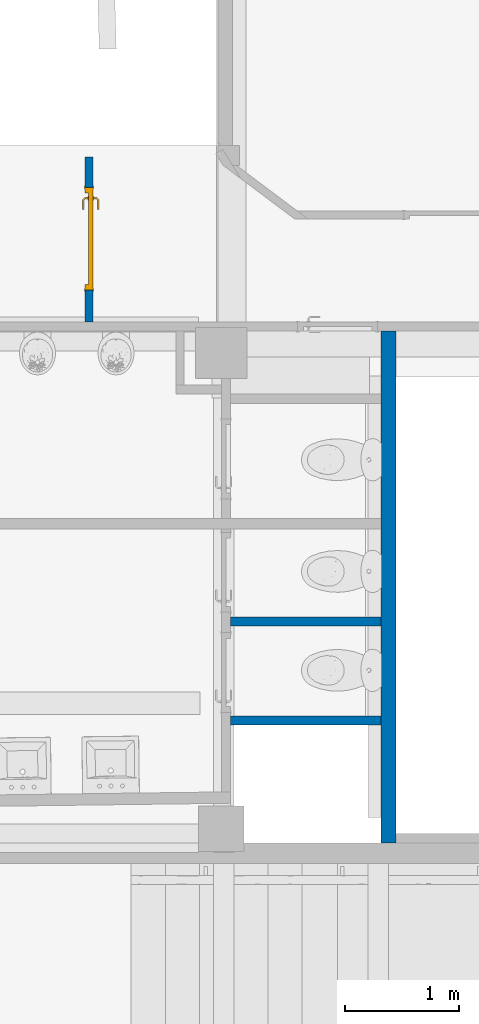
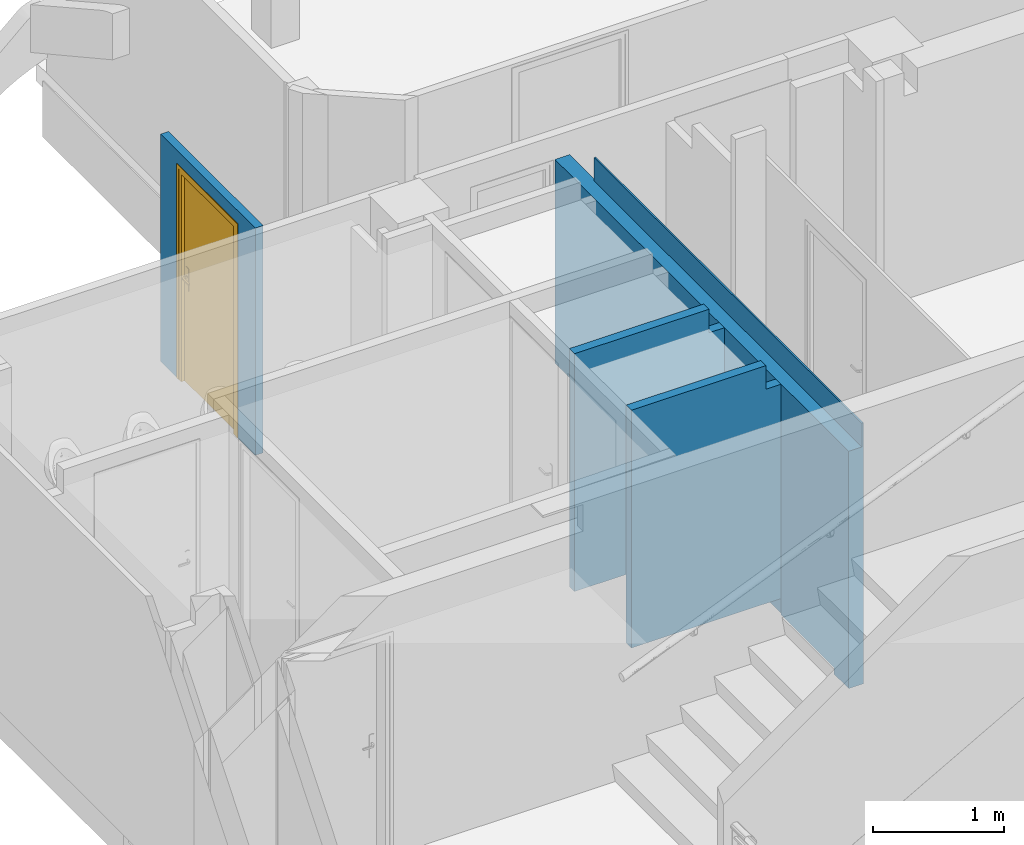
# One storey, part 19 of 32: 4 walls, 1 door, 4 openings.
"""IFC4 building model written with IfcOpenShell, lengths in metres."""

from ifc_helpers import new_model, entity, si_unit, converted_unit, derived_unit, direction, frame, origin, place, context, subcontext, project, spatial, indexed_curve, outline, extrude, polygons, source, transform, mapped, material, material_list, layer, layer_set, constituent, constituent_set, type_object, type_shapes, element, fill, save


model = new_model("IFC4")

# Units and contexts
model_context = context("Model", 3, precision=1e-05, world=origin(), true_north=direction((6.12303176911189e-17, 1.0)))
body_context = subcontext(model_context, "Body", "Model", "MODEL_VIEW")
ifc_project = project(units=[si_unit("LENGTHUNIT", "METRE"), si_unit("AREAUNIT", "SQUARE_METRE"), si_unit("VOLUMEUNIT", "CUBIC_METRE"), converted_unit("PLANEANGLEUNIT", "DEGREE", entity("IfcRatioMeasure", 0.0174532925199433), si_unit("PLANEANGLEUNIT", "RADIAN"), dimensions=[0, 0, 0, 0, 0, 0, 0]), si_unit("MASSUNIT", "GRAM", prefix="KILO"), derived_unit("MASSDENSITYUNIT", [(si_unit("MASSUNIT", "GRAM", prefix="KILO"), 1), (si_unit("LENGTHUNIT", "METRE"), -3)]), derived_unit("MOMENTOFINERTIAUNIT", [(si_unit("LENGTHUNIT", "METRE"), 4)]), si_unit("TIMEUNIT", "SECOND"), si_unit("FREQUENCYUNIT", "HERTZ"), si_unit("THERMODYNAMICTEMPERATUREUNIT", "DEGREE_CELSIUS"), derived_unit("THERMALTRANSMITTANCEUNIT", [(si_unit("MASSUNIT", "GRAM", prefix="KILO"), 1), (si_unit("THERMODYNAMICTEMPERATUREUNIT", "KELVIN"), -1), (si_unit("TIMEUNIT", "SECOND"), -3)]), derived_unit("VOLUMETRICFLOWRATEUNIT", [(si_unit("LENGTHUNIT", "METRE"), 3), (si_unit("TIMEUNIT", "SECOND"), -1)]), si_unit("ELECTRICCURRENTUNIT", "AMPERE"), si_unit("ELECTRICVOLTAGEUNIT", "VOLT"), si_unit("POWERUNIT", "WATT"), si_unit("FORCEUNIT", "NEWTON", prefix="KILO"), si_unit("ILLUMINANCEUNIT", "LUX"), si_unit("LUMINOUSFLUXUNIT", "LUMEN"), si_unit("LUMINOUSINTENSITYUNIT", "CANDELA"), derived_unit("USERDEFINED", [(si_unit("MASSUNIT", "GRAM", prefix="KILO"), -1), (si_unit("LENGTHUNIT", "METRE"), -2), (si_unit("TIMEUNIT", "SECOND"), 3), (si_unit("LUMINOUSFLUXUNIT", "LUMEN"), 1)]), derived_unit("LINEARVELOCITYUNIT", [(si_unit("LENGTHUNIT", "METRE"), 1), (si_unit("TIMEUNIT", "SECOND"), -1)]), si_unit("PRESSUREUNIT", "PASCAL"), derived_unit("USERDEFINED", [(si_unit("LENGTHUNIT", "METRE"), -2), (si_unit("MASSUNIT", "GRAM", prefix="KILO"), 1), (si_unit("TIMEUNIT", "SECOND"), -2)]), derived_unit("LINEARFORCEUNIT", [(si_unit("MASSUNIT", "GRAM", prefix="KILO"), 1), (si_unit("LENGTHUNIT", "METRE"), 1), (si_unit("TIMEUNIT", "SECOND"), -2), (si_unit("LENGTHUNIT", "METRE"), -1)]), derived_unit("PLANARFORCEUNIT", [(si_unit("MASSUNIT", "GRAM", prefix="KILO"), 1), (si_unit("LENGTHUNIT", "METRE"), 1), (si_unit("TIMEUNIT", "SECOND"), -2), (si_unit("LENGTHUNIT", "METRE"), -2)])], contexts=[model_context])

# Site, building, storey
site_placement = place(None, origin())
site = spatial("IfcSite", under=ifc_project, at=site_placement, Name="Default", CompositionType="ELEMENT")
building_placement = place(site_placement, origin())
building = spatial("IfcBuilding", under=site, at=building_placement, Name="HOTEL CONSULAIRE BOULOGNE SUR MER", CompositionType="ELEMENT")
storey_placement = place(building_placement, frame((0.0, 0.0, -2.70343668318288)))
storey = spatial("IfcBuildingStorey", under=building, at=storey_placement, Name="SS1", CompositionType="ELEMENT", Elevation=-2.70343668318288)

# Wall, opening, door
ifc_material_1 = material(Name="Mur par défaut", Category="Divers")
ifc_layer_1 = layer(ifc_material_1, 0.07, Name="Mur par défaut", Category="Divers")
ifc_layer_set_1 = layer_set([ifc_layer_1], Name="Mur de base:Générique - Int. 70 mm")
wall_type_1 = type_object("IfcWallType", Name="Mur de base:Générique - Int. 70 mm", PredefinedType="NOTDEFINED", material=ifc_layer_set_1)
wall_1_placement = place(storey_placement, frame((-2.38994801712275, -15.3456940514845, 0.313990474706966), z_axis=(0.0, 0.0, 1.0), x_axis=(0.0, 1.0, 0.0)))
wall_1 = element("IfcWall", 1, at=wall_1_placement, inside=storey, type_object=wall_type_1, material=ifc_layer_set_1, Name="Mur de base:Générique - Int. 70 mm", ObjectType="Mur de base:Générique - Int. 70 mm", PredefinedType="NOTDEFINED", context=body_context, shape_type="Tessellation", body=[
    polygons([(1.4473609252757, -0.0350000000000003, 0.0), (1.1813609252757, -0.0350000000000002, 0.0), (1.18136092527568, 0.0349999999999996, 0.0), (1.4473609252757, 0.035, 0.0), (1.4473609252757, -0.0350000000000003, 2.11944620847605), (0.0, -0.0350000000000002, 2.11944620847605), (0.0, -0.0350000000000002, 0.0), (0.281360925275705, -0.0350000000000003, 9.52529303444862e-06), (0.281360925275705, -0.0350000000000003, 1.98500952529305), (1.1813609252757, -0.0350000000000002, 1.98500952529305), (0.0, 0.0349999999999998, 2.11944620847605), (1.4473609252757, 0.0349999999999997, 2.11944620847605), (1.1813609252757, 0.0349999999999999, 1.98500952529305), (0.281360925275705, 0.0349999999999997, 1.98500952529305), (0.281360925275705, 0.0349999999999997, 0.0), (0.0, 0.0349999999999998, 0.0)], [[[2, 3, 4, 1]], [[10, 9, 14, 13]], [[7, 16, 15]], [[7, 8, 9, 10, 2, 1, 5, 6]], [[4, 3, 13, 14, 15, 16, 11, 12]], [[6, 5, 12, 11]], [[9, 8, 15, 14]], [[1, 4, 12, 5]], [[2, 10, 13, 3]], [[16, 7, 6, 11]], [[15, 8, 7]]], closed=True),
])
opening_1_placement = place(wall_1_placement, frame((1.1813609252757, 0.0349999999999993, 9.52529303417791e-06)))
opening_1 = element("IfcOpeningElement", 2, at=opening_1_placement, cuts=wall_1, Name="Int. Simple:PP (0.83m x 1.95:1", ObjectType="Opening", PredefinedType="OPENING", context=body_context, shape_type="SweptSolid", body=[
    extrude(outline(indexed_curve([(0.0, 0.900000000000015), (0.0, 1.51601398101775e-14), (1.98500000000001, 0.0), (1.98500000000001, 0.899999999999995), (0.0, 0.900000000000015)], self_intersect=False)), frame((0.0, 0.0, 0.0), z_axis=(0.0, -1.0, 0.0), x_axis=(0.0, 0.0, 1.0)), (0.0, 0.0, 1.0), 0.07),
])
ifc_material_2 = material(Name="Finition Peinture - Blanc satiné", Category="Peinture")
ifc_constituent_1 = constituent(ifc_material_2, Name="Finition Peinture - Blanc satiné", Category="Matériaux")
ifc_material_3 = material(Name="Bois - Panneau de porte", Category="Bois")
ifc_constituent_2 = constituent(ifc_material_3, Name="Bois - Panneau de porte", Category="Matériaux")
ifc_material_4 = material(Name="Bois - Cadre de porte", Category="Bois")
ifc_constituent_3 = constituent(ifc_material_4, Name="Bois - Cadre de porte", Category="Matériaux")
ifc_constituent_set = constituent_set(constituents=[ifc_constituent_1, ifc_constituent_2, ifc_constituent_3], Name="MaterialConstituentSet")
ifc_material_list = material_list([ifc_material_4, ifc_material_2, ifc_material_3, ifc_material_4])
door_type = type_object("IfcDoorType", Name="Int. Simple:PP (0.83m x 1.95", OperationType="NOTDEFINED", PredefinedType="DOOR", material=ifc_material_list)
shared_shape = source(origin(), body_context, "Body", "Tessellation", [
    polygons([(0.895000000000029, -0.00500000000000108, 0.870000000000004), (0.895000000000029, -0.00500000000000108, 1.08), (0.88535276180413, -0.00500000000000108, 1.08399601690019), (0.875000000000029, -0.00500000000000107, 1.08535898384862), (0.864647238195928, -0.00500000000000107, 1.08399601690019), (0.85500000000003, -0.00500000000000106, 1.08), (0.855000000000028, -0.00500000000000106, 0.870000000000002), (0.864647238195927, -0.00500000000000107, 0.866003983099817), (0.875000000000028, -0.00500000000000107, 0.86464101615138), (0.885352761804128, -0.00500000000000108, 0.866003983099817), (0.895000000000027, -1.07440722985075e-15, 0.870000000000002), (0.885352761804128, -1.07017728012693e-15, 0.866003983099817), (0.875000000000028, -1.06594733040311e-15, 0.86464101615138), (0.864647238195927, -1.06171738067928e-15, 0.866003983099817), (0.855000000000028, -1.05748743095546e-15, 0.870000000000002), (0.855000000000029, -1.05748743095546e-15, 1.08), (0.864647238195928, -1.06171738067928e-15, 1.08399601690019), (0.875000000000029, -1.06594733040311e-15, 1.08535898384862), (0.88535276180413, -1.07017728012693e-15, 1.08399601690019), (0.895000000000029, -1.07440722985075e-15, 1.08)], [[[1, 2, 3, 4, 5, 6, 7, 8, 9, 10]], [[20, 11, 12, 13, 14, 15, 16, 17, 18, 19]], [[10, 12, 11, 1]], [[9, 13, 12, 10]], [[8, 14, 13, 9]], [[8, 7, 15, 14]], [[15, 7, 6, 16]], [[5, 17, 16, 6]], [[4, 18, 17, 5]], [[3, 19, 18, 4]], [[3, 2, 20, 19]], [[11, 20, 2, 1]]], closed=True),
    polygons([(0.85500000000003, 0.0399999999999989, 1.08), (0.855000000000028, 0.0399999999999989, 0.870000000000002), (0.864647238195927, 0.0399999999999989, 0.866003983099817), (0.875000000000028, 0.0399999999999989, 0.86464101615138), (0.885352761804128, 0.0399999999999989, 0.866003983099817), (0.895000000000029, 0.0399999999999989, 0.870000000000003), (0.895000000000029, 0.0399999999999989, 1.08), (0.88535276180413, 0.0399999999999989, 1.08399601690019), (0.875000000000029, 0.0399999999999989, 1.08535898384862), (0.864647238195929, 0.0399999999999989, 1.08399601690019), (0.85500000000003, 0.0449999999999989, 1.08), (0.864647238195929, 0.0449999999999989, 1.08399601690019), (0.875000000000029, 0.0449999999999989, 1.08535898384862), (0.88535276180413, 0.0449999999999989, 1.08399601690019), (0.895000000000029, 0.0449999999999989, 1.08), (0.895000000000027, 0.0449999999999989, 0.870000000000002), (0.885352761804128, 0.0449999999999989, 0.866003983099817), (0.875000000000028, 0.0449999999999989, 0.86464101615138), (0.864647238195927, 0.0449999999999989, 0.866003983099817), (0.855000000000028, 0.0449999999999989, 0.870000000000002)], [[[6, 7, 8, 9, 10, 1, 2, 3, 4, 5]], [[13, 14, 15, 16, 17, 18, 19, 20, 11, 12]], [[10, 12, 11, 1]], [[9, 13, 12, 10]], [[8, 14, 13, 9]], [[8, 7, 15, 14]], [[16, 15, 7, 6]], [[5, 17, 16, 6]], [[4, 18, 17, 5]], [[3, 19, 18, 4]], [[3, 2, 20, 19]], [[20, 2, 1, 11]]], closed=True),
    polygons([(0.88100000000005, -0.00500000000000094, 1.00699999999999), (0.88100000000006, -0.00500000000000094, 0.992999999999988), (0.877025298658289, -0.00500000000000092, 0.99221955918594), (0.87297470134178, -0.00500000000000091, 0.992219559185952), (0.869000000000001, -0.00500000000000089, 0.993000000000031), (0.869000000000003, -0.00500000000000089, 1.007), (0.872974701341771, -0.00500000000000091, 1.00778044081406), (0.877025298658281, -0.00500000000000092, 1.00778044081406), (0.869000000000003, -0.0276803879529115, 1.007), (0.872974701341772, -0.0293267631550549, 1.00778044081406), (0.877025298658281, -0.0310045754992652, 1.00778044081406), (0.881000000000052, -0.0326509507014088, 1.007), (0.869000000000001, -0.0276803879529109, 0.993000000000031), (0.88100000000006, -0.0326509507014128, 0.992999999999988), (0.877025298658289, -0.0310045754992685, 0.99221955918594), (0.87297470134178, -0.0293267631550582, 0.992219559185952), (0.857652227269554, -0.0390281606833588, 1.007), (0.859298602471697, -0.0430028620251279, 1.00778044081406), (0.860976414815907, -0.0470534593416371, 1.00778044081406), (0.862622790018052, -0.051028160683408, 1.007), (0.857652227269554, -0.0390281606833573, 0.993000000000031), (0.862622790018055, -0.0510281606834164, 0.992999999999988), (0.860976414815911, -0.0470534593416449, 0.99221955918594), (0.859298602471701, -0.0430028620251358, 0.992219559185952), (0.774981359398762, -0.0510281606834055, 1.007), (0.774981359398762, -0.0470534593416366, 1.00778044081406), (0.774981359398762, -0.0430028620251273, 1.00778044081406), (0.774981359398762, -0.0390281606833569, 1.00699999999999), (0.774981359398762, -0.0390281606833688, 0.993000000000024), (0.774981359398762, -0.0430028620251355, 0.992219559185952), (0.774981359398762, -0.0470534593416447, 0.99221955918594), (0.774981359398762, -0.0510281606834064, 0.992999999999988), (0.822692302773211, -0.051028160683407, 1.007), (0.817139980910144, -0.045028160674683, 1.0078786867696), (0.816316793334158, -0.039028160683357, 1.007), (0.822692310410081, -0.0510281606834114, 0.992999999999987), (0.817139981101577, -0.0450281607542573, 0.992121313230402), (0.81631679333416, -0.039028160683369, 0.993000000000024)], [[[7, 8, 1, 2, 3, 4, 5, 6]], [[17, 21, 38, 29, 28, 35]], [[1, 8, 11, 12]], [[8, 7, 10, 18, 19, 11]], [[7, 6, 9, 10]], [[13, 9, 6, 5]], [[25, 26, 27, 28, 29, 30, 31, 32]], [[4, 16, 13, 5]], [[4, 3, 15, 23, 24, 16]], [[2, 14, 15, 3]], [[12, 14, 2, 1]], [[12, 11, 19, 20]], [[10, 9, 17, 18]], [[21, 17, 9, 13]], [[13, 16, 24, 21]], [[15, 14, 22, 23]], [[20, 22, 14, 12]], [[34, 26, 33]], [[33, 26, 25]], [[33, 20, 19]], [[18, 35, 34]], [[35, 18, 17]], [[28, 27, 35]], [[34, 27, 26]], [[34, 35, 27]], [[34, 33, 19]], [[18, 34, 19]], [[37, 30, 38]], [[31, 37, 36]], [[24, 38, 21]], [[30, 29, 38]], [[31, 36, 32]], [[36, 23, 22]], [[37, 23, 36]], [[37, 24, 23]], [[37, 38, 24]], [[30, 37, 31]], [[22, 20, 33, 25, 32, 36]]], closed=True),
    polygons([(0.86900000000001, 0.0449999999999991, 0.993000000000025), (0.872974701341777, 0.0449999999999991, 0.992219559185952), (0.877025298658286, 0.044999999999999, 0.99221955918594), (0.881000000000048, 0.044999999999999, 0.992999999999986), (0.881000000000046, 0.044999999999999, 1.007), (0.877025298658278, 0.044999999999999, 1.00778044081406), (0.872974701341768, 0.0449999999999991, 1.00778044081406), (0.868999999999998, 0.0449999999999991, 1.007), (0.868999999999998, 0.067485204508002, 1.007), (0.868999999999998, 0.0674852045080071, 0.993000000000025), (0.881000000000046, 0.0724557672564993, 1.007), (0.877025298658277, 0.070809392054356, 1.00778044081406), (0.872974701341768, 0.0691315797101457, 1.00778044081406), (0.881000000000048, 0.0724557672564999, 0.992999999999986), (0.872974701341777, 0.0691315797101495, 0.992219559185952), (0.877025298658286, 0.0708093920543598, 0.99221955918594), (0.85751471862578, 0.0789704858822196, 1.007), (0.857514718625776, 0.0789704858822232, 0.993000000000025), (0.862485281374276, 0.0909704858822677, 1.007), (0.860838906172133, 0.0869957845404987, 1.00778044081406), (0.859161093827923, 0.0829451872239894, 1.00778044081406), (0.862485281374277, 0.0909704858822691, 0.992999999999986), (0.859161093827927, 0.0829451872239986, 0.992219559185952), (0.860838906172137, 0.0869957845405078, 0.99221955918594), (0.774954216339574, 0.0789704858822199, 0.993000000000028), (0.774954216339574, 0.0789704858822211, 1.007), (0.774954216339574, 0.0829451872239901, 1.00778044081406), (0.774954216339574, 0.0869957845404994, 1.00778044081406), (0.774954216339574, 0.0909704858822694, 1.007), (0.774954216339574, 0.0909704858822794, 0.992999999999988), (0.774954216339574, 0.086995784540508, 0.99221955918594), (0.774954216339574, 0.0829451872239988, 0.992219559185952), (0.82255479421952, 0.0909704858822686, 1.007), (0.817057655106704, 0.0849704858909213, 1.0078786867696), (0.816234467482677, 0.0789704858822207, 1.007), (0.822554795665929, 0.0909704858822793, 0.992999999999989), (0.817057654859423, 0.0849704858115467, 0.992121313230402), (0.816234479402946, 0.0789704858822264, 0.993000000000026)], [[[2, 3, 4, 5, 6, 7, 8, 1]], [[18, 17, 35, 26, 25, 38]], [[9, 10, 1, 8]], [[27, 28, 29, 30, 31, 32, 25, 26]], [[7, 13, 9, 8]], [[7, 6, 12, 20, 21, 13]], [[5, 11, 12, 6]], [[11, 5, 4, 14]], [[4, 3, 16, 14]], [[3, 2, 15, 23, 24, 16]], [[2, 1, 10, 15]], [[17, 18, 10, 9]], [[9, 13, 21, 17]], [[11, 19, 20, 12]], [[22, 19, 11, 14]], [[14, 16, 24, 22]], [[15, 10, 18, 23]], [[34, 27, 35]], [[28, 34, 33]], [[21, 35, 17]], [[27, 26, 35]], [[28, 33, 29]], [[33, 20, 19]], [[34, 20, 33]], [[34, 21, 20]], [[34, 35, 21]], [[27, 34, 28]], [[19, 22, 36, 30, 29, 33]], [[37, 31, 36]], [[36, 31, 30]], [[36, 22, 24]], [[23, 38, 37]], [[38, 23, 18]], [[25, 32, 38]], [[37, 32, 31]], [[37, 38, 32]], [[37, 36, 24]], [[23, 37, 24]]], closed=True),
    polygons([(0.935000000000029, 0.0400000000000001, 1.95), (0.935000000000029, 0.0400000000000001, 0.0), (0.105000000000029, 0.0400000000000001, 0.0), (0.105000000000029, 0.0400000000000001, 1.95), (0.935000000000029, 5.92192961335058e-17, 1.95), (0.105000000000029, 5.92192961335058e-17, 1.95), (0.105000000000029, 5.92192961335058e-17, 0.0), (0.935000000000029, 5.92192961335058e-17, 0.0)], [[[4, 1, 2, 3]], [[5, 6, 7, 8]], [[6, 5, 1, 4]], [[6, 4, 3, 7]], [[8, 7, 3, 2]], [[8, 2, 1, 5]]], closed=True),
    polygons([(0.970000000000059, -4.22994972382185e-18, 0.0), (0.935000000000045, -4.22994972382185e-18, 0.0), (0.935000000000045, 0.04, 0.0), (0.920000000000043, 0.04, 0.0), (0.920000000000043, 0.0699999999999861, 0.0), (0.970000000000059, 0.0699999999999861, 0.0), (0.970000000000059, 0.0699999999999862, 1.98500000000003), (0.970000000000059, -4.22994972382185e-18, 1.98500000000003), (0.920000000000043, 0.0699999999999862, 1.93500000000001), (0.120000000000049, 0.0699999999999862, 1.93500000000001), (0.120000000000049, 0.0699999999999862, 0.0), (0.0700000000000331, 0.0699999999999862, 0.0), (0.0700000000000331, 0.0699999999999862, 1.98500000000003), (0.920000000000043, 0.04, 1.93500000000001), (0.935000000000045, 0.04, 1.95000000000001), (0.105000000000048, 0.04, 1.95000000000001), (0.105000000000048, 0.04, 0.0), (0.120000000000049, 0.04, 4.03399441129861e-24), (0.120000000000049, 0.04, 1.93500000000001), (0.935000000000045, -4.22994972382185e-18, 1.95000000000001), (0.0700000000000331, -4.22994972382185e-18, 1.98500000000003), (0.0700000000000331, -4.22994972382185e-18, -4.2615528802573e-24), (0.105000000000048, -4.22994972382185e-18, 5.75102762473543e-24), (0.105000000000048, -4.22994972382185e-18, 1.95000000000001)], [[[4, 5, 6, 1, 2, 3]], [[17, 23, 22, 12, 11, 18]], [[19, 10, 9, 14]], [[16, 15, 20, 24]], [[8, 1, 6, 7]], [[11, 10, 19, 18]], [[23, 17, 16, 24]], [[9, 10, 11, 12, 13, 7, 6, 5]], [[14, 9, 5, 4]], [[20, 15, 3, 2]], [[22, 21, 13, 12]], [[19, 14, 4, 3, 15, 16, 17, 18]], [[24, 20, 2, 1, 8, 21, 22, 23]], [[13, 21, 8, 7]]], closed=True),
    polygons([(0.955000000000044, 0.0699999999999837, 0.0), (0.955000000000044, 0.0749999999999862, 0.0), (0.985000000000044, 0.0749999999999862, 0.0), (0.985000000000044, 0.0699999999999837, 0.0), (0.985000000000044, 0.0699999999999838, 2.00000000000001), (0.0550000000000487, 0.0699999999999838, 2.00000000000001), (0.0550000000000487, 0.0699999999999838, 0.0), (0.0850000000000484, 0.0699999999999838, 0.0), (0.0850000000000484, 0.0699999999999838, 1.97000000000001), (0.955000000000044, 0.0699999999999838, 1.97000000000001), (0.985000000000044, 0.0749999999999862, 2.00000000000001), (0.955000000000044, 0.0749999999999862, 1.97000000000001), (0.0850000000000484, 0.0749999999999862, 1.97000000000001), (0.0850000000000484, 0.0749999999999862, 4.03399441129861e-24), (0.0550000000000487, 0.0749999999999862, 0.0), (0.0550000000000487, 0.0749999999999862, 2.00000000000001)], [[[2, 3, 4, 1]], [[7, 15, 14, 8]], [[9, 13, 12, 10]], [[9, 10, 1, 4, 5, 6, 7, 8]], [[11, 5, 4, 3]], [[14, 13, 9, 8]], [[12, 13, 14, 15, 16, 11, 3, 2]], [[12, 2, 1, 10]], [[15, 7, 6, 16]], [[16, 6, 5, 11]]], closed=True),
    polygons([(0.0850000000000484, -0.005, -1.35358391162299e-16), (0.0550000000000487, -0.005, -1.35358391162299e-16), (0.0550000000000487, -8.33300095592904e-16, -1.35358391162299e-16), (0.0850000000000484, -8.33300095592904e-16, -1.35358391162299e-16), (0.955000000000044, -0.005, 0.0), (0.955000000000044, -8.33300095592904e-16, 0.0), (0.985000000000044, -8.33300095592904e-16, 0.0), (0.985000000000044, -0.005, 0.0), (0.985000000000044, -0.005, 2.00000000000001), (0.0550000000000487, -0.005, 2.00000000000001), (0.0850000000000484, -0.005, 1.97000000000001), (0.955000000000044, -0.005, 1.97000000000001), (0.985000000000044, -8.33300095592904e-16, 2.00000000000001), (0.955000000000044, -8.33300095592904e-16, 1.97000000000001), (0.0850000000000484, -8.33300095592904e-16, 1.97000000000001), (0.0550000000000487, -8.33300095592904e-16, 2.00000000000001)], [[[2, 3, 4, 1]], [[6, 7, 8, 5]], [[11, 15, 14, 12]], [[11, 12, 5, 8, 9, 10, 2, 1]], [[13, 9, 8, 7]], [[4, 15, 11, 1]], [[14, 15, 4, 3, 16, 13, 7, 6]], [[14, 6, 5, 12]], [[3, 2, 10, 16]], [[10, 9, 13, 16]]], closed=True),
])
type_shapes(door_type, [shared_shape])
door_placement = place(opening_1_placement, frame((-0.970000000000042, -0.0699999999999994, 0.0)))
door = element("IfcDoor", 3, at=door_placement, inside=storey, type_object=door_type, material=ifc_constituent_set, Name="Int. Simple:PP (0.83m x 1.95", ObjectType="Int. Simple:PP (0.83m x 1.95", OperationType="NOTDEFINED", OverallHeight=1.98500000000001, OverallWidth=0.900000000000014, PredefinedType="DOOR", context=body_context, shape_type="MappedRepresentation", body=[
    mapped(shared_shape, transform((0.0, 0.0, 0.0), scale=1.0)),
])
fill(opening_1, door)

# Wall, openings
ifc_layer_2 = layer(ifc_material_1, 0.13, Name="Mur par défaut", Category="Divers")
ifc_layer_set_2 = layer_set([ifc_layer_2], Name="Mur de base:Générique - Int. 130 mm")
wall_type_2 = type_object("IfcWallType", Name="Mur de base:Générique - Int. 130 mm", PredefinedType="NOTDEFINED", material=ifc_layer_set_2)
wall_2_placement = place(storey_placement, frame((0.237268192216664, -19.9149143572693, 0.0), z_axis=(0.0, 0.0, 1.0), x_axis=(0.0, 1.0, 0.0)))
wall_2 = element("IfcWall", 4, at=wall_2_placement, inside=storey, type_object=wall_type_2, material=ifc_layer_set_2, Name="Mur de base:Générique - Int. 130 mm", ObjectType="Mur de base:Générique - Int. 130 mm", PredefinedType="NOTDEFINED", context=body_context, shape_type="Tessellation", body=[
    polygons([(3.85668094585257, 0.065, 0.215), (2.84600000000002, 0.065, 0.215), (2.75600000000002, 0.065, 0.215), (1.9807784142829, 0.065, 0.215), (1.9007784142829, 0.065, 0.215), (1.1120045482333, 0.065, 0.215), (1.0320045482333, 0.065, 0.215), (1.0320045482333, 0.065, 0.0599999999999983), (0.224304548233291, 0.065, 0.0599999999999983), (0.224304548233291, 0.065, 0.0), (0.0, 0.065, 0.0), (0.0, 0.065, 2.21343668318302), (1.0320045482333, 0.065, 2.21343668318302), (1.1120045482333, 0.065, 2.21343668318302), (1.9007784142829, 0.065, 2.21343668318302), (1.9807784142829, 0.065, 2.21343668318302), (2.75600000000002, 0.065, 2.21343668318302), (2.84600000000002, 0.065, 2.21343668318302), (3.85668094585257, 0.065, 2.21343668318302), (3.93668094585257, 0.065, 2.21343668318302), (4.48922030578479, 0.065, 2.21343668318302), (4.48922030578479, 0.065, 0.313990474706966), (3.93668094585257, 0.065, 0.313990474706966), (3.85668094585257, 0.065, 0.313990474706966), (0.0, -0.065, 2.43343668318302), (0.0, -0.065, 0.294), (0.0, -0.065, 0.0), (4.26500454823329, -0.065, 0.0), (4.26500454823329, -0.065, 0.143990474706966), (4.08922030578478, -0.065, 0.143990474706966), (4.08922030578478, -0.065, 0.313990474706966), (4.48922030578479, -0.065, 0.313990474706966), (4.48922030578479, -0.065, 2.21343668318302), (4.08922030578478, -0.065, 2.21343668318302), (4.08922030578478, -0.065, 2.43343668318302), (0.0799999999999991, -0.065, 2.43343668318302), (3.85668094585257, 0.065, 0.0599999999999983), (3.85668094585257, 0.065, 0.143990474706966), (4.26500454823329, 0.065, 0.143990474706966), (4.26500454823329, 0.065, 0.0), (4.09770454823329, 0.065, 0.0), (4.09770454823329, 0.065, 0.0599999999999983), (0.224304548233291, -0.000572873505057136, 0.0), (4.09770454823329, -0.00057287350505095, 0.0), (0.0, -0.050271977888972, 2.43343668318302), (4.08922030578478, -0.0502719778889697, 2.43343668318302), (0.0, -0.0502719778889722, 2.21343668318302), (3.85668094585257, 0.0534953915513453, 0.215), (1.0320045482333, 0.0534953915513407, 0.215), (3.85668094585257, 0.0534953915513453, 0.143990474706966), (3.85668094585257, 0.0534953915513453, 0.0599999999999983), (1.0320045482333, 0.0534953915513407, 0.0599999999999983), (3.85668094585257, -0.0502719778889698, 0.143990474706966), (4.08922030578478, -0.0502719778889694, 0.143990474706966), (3.85668094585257, -0.0502719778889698, 0.313990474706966), (4.08922030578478, -0.0502719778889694, 0.313990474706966), (0.224304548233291, -0.000572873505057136, 0.0599999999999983), (4.09770454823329, -0.00057287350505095, 0.0599999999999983), (4.08922030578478, -0.0502719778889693, 2.21343668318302)], [[[22, 23, 24, 1, 2, 3, 4, 5, 6, 7, 8, 9, 10, 11, 12, 13, 14, 15, 16, 17, 18, 19, 20, 21]], [[42, 37, 38, 39, 40, 41]], [[50, 51, 52, 49, 48]], [[43, 57, 58, 44]], [[46, 59, 47, 45]], [[55, 56, 54, 53]], [[26, 27, 28, 29, 30, 31, 32, 33, 34, 35, 36, 25]], [[27, 11, 10, 43, 44, 41, 40, 28]], [[48, 49, 7, 6, 5, 4, 3, 2, 1]], [[23, 22, 32, 31, 56, 55, 24]], [[51, 37, 42, 58, 57, 9, 8, 52]], [[36, 35, 46, 45, 25]], [[29, 39, 38, 50, 53, 54, 30]], [[13, 12, 47, 59, 34, 33, 21, 20, 19, 18, 17, 16, 15, 14]], [[11, 27, 26, 25, 45, 47, 12]], [[50, 38, 37, 51]], [[41, 44, 58, 42]], [[32, 22, 21, 33]], [[53, 50, 48, 1, 24, 55]], [[57, 43, 10, 9]], [[46, 35, 34, 59]], [[56, 31, 30, 54]], [[49, 52, 8, 7]], [[39, 29, 28, 40]]], closed=True),
])
opening_2_placement = place(storey_placement, frame((0.237268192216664, -19.9149143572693, 0.0), z_axis=(0.0, 0.0, 1.0), x_axis=(0.0, 1.0, 0.0)))
element("IfcOpeningElement", 5, at=opening_2_placement, cuts=wall_2, Name="Mur de base:Générique - Int. 130 mm:1", ObjectType="Opening", PredefinedType="OPENING", context=body_context, shape_type="SweptSolid", body=[
    extrude(outline(indexed_curve([(-0.0299999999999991, -0.0327864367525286), (0.0299999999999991, -0.0327864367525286), (0.0299999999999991, 0.0327864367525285), (-0.0299999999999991, 0.0327864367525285), (-0.0299999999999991, -0.0327864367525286)], self_intersect=False)), frame((0.224304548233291, 0.0322135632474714, 0.0299999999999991), z_axis=(1.0, 0.0, 0.0), x_axis=(0.0, 0.0, -1.0)), (0.0, 0.0, 1.0), 3.8734),
])
opening_3_placement = place(storey_placement, frame((0.237268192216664, -19.9149143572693, 0.0), z_axis=(0.0, 0.0, 1.0), x_axis=(0.0, 1.0, 0.0)))
element("IfcOpeningElement", 6, at=opening_3_placement, cuts=wall_2, Name="Mur de base:Générique - Int. 130 mm:2", ObjectType="Opening", PredefinedType="OPENING", context=body_context, shape_type="SweptSolid", body=[
    extrude(outline(indexed_curve([(-0.0717212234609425, -0.183103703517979), (-0.0602166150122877, -0.183103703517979), (0.0435507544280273, -0.183103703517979), (0.0435507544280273, 0.0494356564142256), (0.0582787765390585, 0.0494356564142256), (0.0582787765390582, 0.22521989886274), (-0.0717212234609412, 0.225219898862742), (-0.0717212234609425, -0.183103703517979)], self_intersect=False)), frame((4.03978464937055, -0.00672122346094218, 0.143990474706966), z_axis=(0.0, 0.0, 1.0), x_axis=(0.0, -1.0, 0.0)), (0.0, 0.0, 1.0), 0.17),
])
opening_4_placement = place(storey_placement, frame((0.237268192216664, -19.9149143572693, 0.0), z_axis=(0.0, 0.0, 1.0), x_axis=(0.0, 1.0, 0.0)))
element("IfcOpeningElement", 7, at=opening_4_placement, cuts=wall_2, Name="Mur de base:Générique - Int. 130 mm:3", ObjectType="Opening", PredefinedType="OPENING", context=body_context, shape_type="SweptSolid", body=[
    extrude(outline(indexed_curve([(-0.00575230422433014, -0.0775000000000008), (0.0057523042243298, -0.0775000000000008), (0.0057523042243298, 0.0775000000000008), (-0.00575230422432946, 0.0775000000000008), (-0.00575230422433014, -0.0775000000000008)], self_intersect=False)), frame((1.0320045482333, 0.0592476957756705, 0.137499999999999), z_axis=(1.0, 0.0, 0.0), x_axis=(0.0, -1.0, 0.0)), (0.0, 0.0, 1.0), 2.82467639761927),
])

# Walls
ifc_layer_3 = layer(ifc_material_1, 0.08, Name="Mur par défaut", Category="Divers")
ifc_layer_set_3 = layer_set([ifc_layer_3], Name="Mur de base:Générique - Int. 80")
wall_type_3 = type_object("IfcWallType", Name="Mur de base:Générique - Int. 80", PredefinedType="NOTDEFINED", material=ifc_layer_set_3)
wall_3_placement = place(storey_placement, frame((0.172268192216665, -18.842909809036, 0.215), z_axis=(0.0, 0.0, 1.0), x_axis=(-1.0, 0.0, 0.0)))
element("IfcWall", 8, at=wall_3_placement, inside=storey, type_object=wall_type_3, material=ifc_layer_set_3, Name="Mur de base:Générique - Int. 80", ObjectType="Mur de base:Générique - Int. 80", PredefinedType="NOTDEFINED", context=body_context, shape_type="Tessellation", body=[
    polygons([(1.27947367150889e-16, -0.0399999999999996, 0.0), (1.32109141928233, -0.0399999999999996, 0.0), (1.32109141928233, -0.0399999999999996, 2.21843668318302), (0.134728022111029, -0.0399999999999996, 2.21843668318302), (0.134728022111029, -0.0399999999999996, 1.99843668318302), (-7.41102401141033e-18, -0.0399999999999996, 1.99843668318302), (1.32109141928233, 0.0399999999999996, 0.0), (2.18086708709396e-16, 0.0399999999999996, 0.0), (8.27283175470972e-17, 0.0399999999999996, 1.99843668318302), (0.134728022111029, 0.0399999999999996, 1.99843668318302), (0.134728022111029, 0.0399999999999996, 2.21843668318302), (1.32109141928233, 0.0399999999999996, 2.21843668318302)], [[[5, 6, 1, 2, 3, 4]], [[12, 7, 8, 9, 10, 11]], [[2, 1, 8, 7]], [[4, 3, 12, 11]], [[5, 10, 9, 6]], [[2, 7, 12, 3]], [[8, 1, 6, 9]], [[5, 4, 11, 10]]], closed=True),
])
wall_4_placement = place(storey_placement, frame((0.172268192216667, -17.9741359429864, 0.215), z_axis=(0.0, 0.0, 1.0), x_axis=(-1.0, 0.0, 0.0)))
element("IfcWall", 9, at=wall_4_placement, inside=storey, type_object=wall_type_3, material=ifc_layer_set_3, Name="Mur de base:Générique - Int. 80", ObjectType="Mur de base:Générique - Int. 80", PredefinedType="NOTDEFINED", context=body_context, shape_type="Tessellation", body=[
    polygons([(1.57404658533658e-16, -0.0399999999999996, 0.0), (1.32109141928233, -0.0399999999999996, 0.0), (1.32109141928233, -0.0399999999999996, 2.21843668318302), (0.134728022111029, -0.0399999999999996, 2.21843668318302), (0.134728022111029, -0.0399999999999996, 1.99843668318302), (1.91244256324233e-16, -0.0399999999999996, 1.99843668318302), (1.32109141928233, 0.0399999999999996, 0.0), (1.36760929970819e-16, 0.0399999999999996, 0.0), (1.40253880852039e-18, 0.0399999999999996, 1.99843668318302), (0.134728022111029, 0.0399999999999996, 1.99843668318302), (0.134728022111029, 0.0399999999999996, 2.21843668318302), (1.32109141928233, 0.0399999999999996, 2.21843668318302)], [[[5, 6, 1, 2, 3, 4]], [[12, 7, 8, 9, 10, 11]], [[2, 1, 8, 7]], [[4, 3, 12, 11]], [[5, 10, 9, 6]], [[2, 7, 12, 3]], [[8, 1, 6, 9]], [[4, 11, 10, 5]]], closed=True),
])

save(model, "model.ifc")
